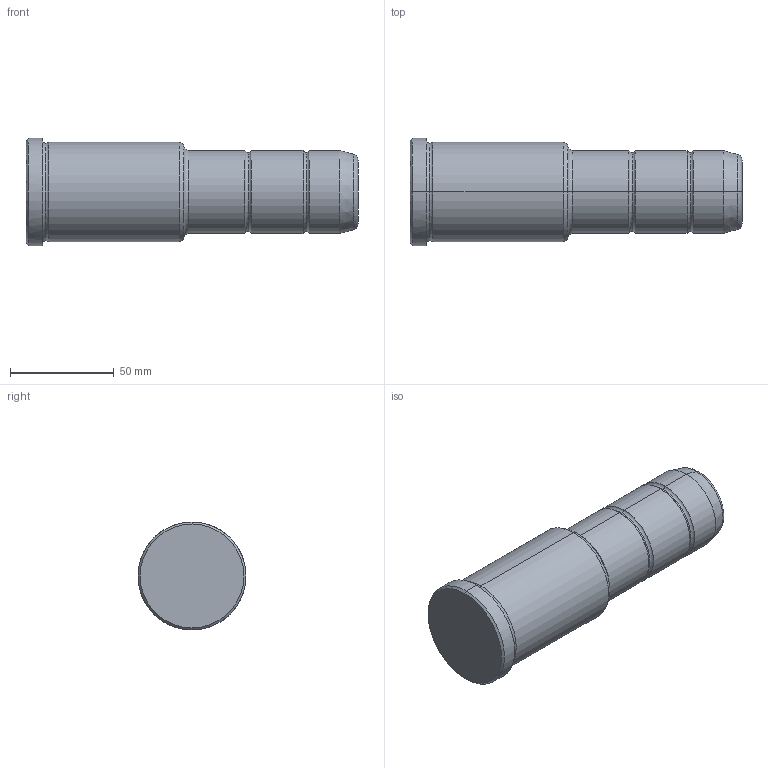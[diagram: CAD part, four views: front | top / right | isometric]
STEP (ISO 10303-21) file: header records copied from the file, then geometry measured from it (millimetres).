
FILE_DESCRIPTION(('CATIA V5 STEP Exchange'),'2;1');
FILE_NAME('C:\Users\Utente\Desktop\IO LAVORO\3D X SITO CF\X SITO\PLASTICA\351\351-40X76X160.stp','2021-10-08T06:43:07+00:00',('none'),('none'),'CATIA Version 5 Release 20 GA (IN-10)','CATIA V5 STEP AP203','none');
FILE_SCHEMA(('CONFIG_CONTROL_DESIGN'));
Length unit declared in the file: millimetre
Products named in the file (1): 351-40X76X160
Bounding box: 160 x 52 x 52 mm (x, y, z)
Volume: 243413.3 mm3; surface area: 25812.2 mm2
Topology: 1 solids, 1 shells, 36 faces, 102 edges, 70 vertices
Faces by surface type: torus 16, cylinder 10, cone 6, plane 4
Entity records: 1292 total; most frequent: CARTESIAN_POINT 321, ORIENTED_EDGE 204, DIRECTION 166, AXIS2_PLACEMENT_3D 115, EDGE_CURVE 102, CIRCLE 78, VERTEX_POINT 70, EDGE_LOOP 38
